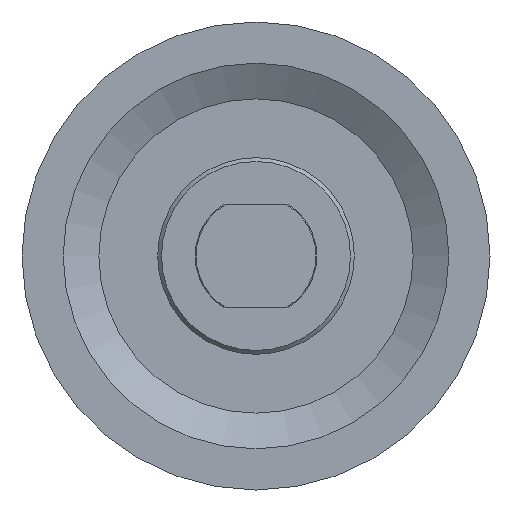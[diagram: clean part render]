
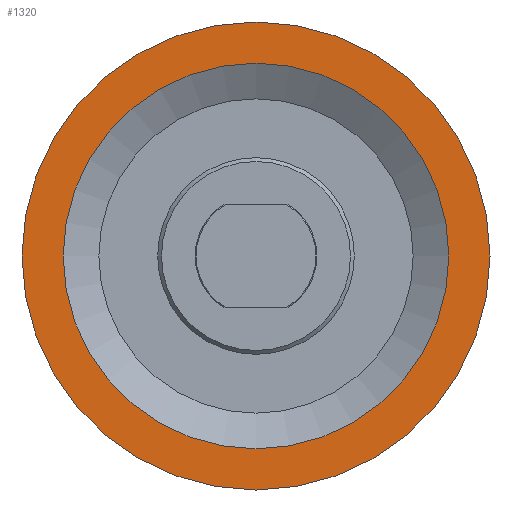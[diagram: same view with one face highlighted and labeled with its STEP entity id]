
A CAD part, left-side view. The second image highlights one B-rep face of the part: STEP entity #1320.
In plain terms, the highlighted planar face has unit normal (-1, 0, 0).
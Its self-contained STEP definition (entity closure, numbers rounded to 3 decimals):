
#107=FACE_BOUND('',#275,.T.);
#121=PLANE('',#1614);
#190=FACE_OUTER_BOUND('',#274,.T.);
#274=EDGE_LOOP('',(#996,#997));
#275=EDGE_LOOP('',(#998,#999));
#508=CIRCLE('',#1590,125.);
#509=CIRCLE('',#1591,125.);
#523=CIRCLE('',#1612,103.);
#524=CIRCLE('',#1613,103.);
#604=VERTEX_POINT('',#2274);
#605=VERTEX_POINT('',#2276);
#619=VERTEX_POINT('',#2317);
#620=VERTEX_POINT('',#2319);
#739=EDGE_CURVE('',#604,#605,#508,.T.);
#740=EDGE_CURVE('',#605,#604,#509,.T.);
#760=EDGE_CURVE('',#620,#619,#523,.T.);
#761=EDGE_CURVE('',#619,#620,#524,.T.);
#996=ORIENTED_EDGE('',*,*,#740,.F.);
#997=ORIENTED_EDGE('',*,*,#739,.F.);
#998=ORIENTED_EDGE('',*,*,#760,.T.);
#999=ORIENTED_EDGE('',*,*,#761,.T.);
#1320=ADVANCED_FACE('',(#190,#107),#121,.T.);
#1590=AXIS2_PLACEMENT_3D('',#2277,#1832,#1833);
#1591=AXIS2_PLACEMENT_3D('',#2278,#1834,#1835);
#1612=AXIS2_PLACEMENT_3D('',#2320,#1882,#1883);
#1613=AXIS2_PLACEMENT_3D('',#2321,#1884,#1885);
#1614=AXIS2_PLACEMENT_3D('',#2322,#1886,#1887);
#1832=DIRECTION('center_axis',(1.,0.,0.));
#1833=DIRECTION('ref_axis',(0.,0.,-1.));
#1834=DIRECTION('center_axis',(1.,0.,0.));
#1835=DIRECTION('ref_axis',(0.,0.,-1.));
#1882=DIRECTION('center_axis',(1.,0.,0.));
#1883=DIRECTION('ref_axis',(0.,0.,-1.));
#1884=DIRECTION('center_axis',(1.,0.,0.));
#1885=DIRECTION('ref_axis',(0.,0.,-1.));
#1886=DIRECTION('center_axis',(-1.,0.,0.));
#1887=DIRECTION('ref_axis',(0.,0.,1.));
#2274=CARTESIAN_POINT('',(-18.,-125.,0.));
#2276=CARTESIAN_POINT('',(-18.,125.,0.));
#2277=CARTESIAN_POINT('Origin',(-18.,0.,0.));
#2278=CARTESIAN_POINT('Origin',(-18.,0.,0.));
#2317=CARTESIAN_POINT('',(-18.,-103.,0.));
#2319=CARTESIAN_POINT('',(-18.,103.,0.));
#2320=CARTESIAN_POINT('Origin',(-18.,0.,0.));
#2321=CARTESIAN_POINT('Origin',(-18.,0.,0.));
#2322=CARTESIAN_POINT('Origin',(-18.,125.,0.));
